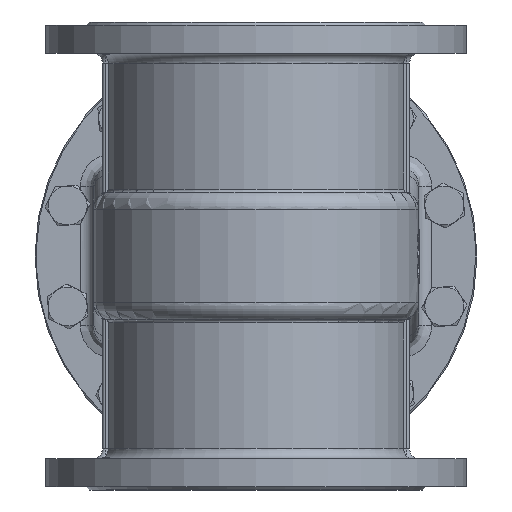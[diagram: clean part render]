
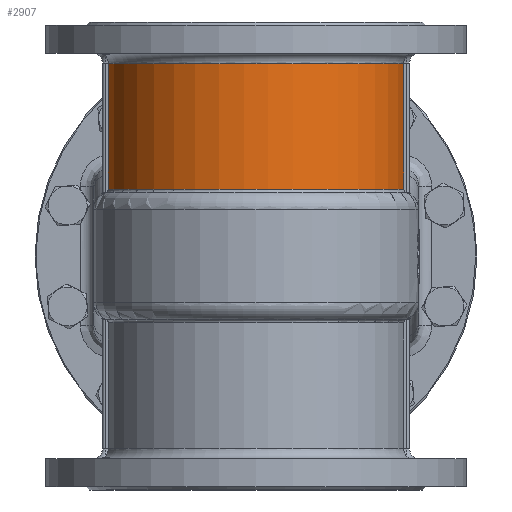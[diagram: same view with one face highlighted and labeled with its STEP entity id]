
A CAD part, front view. The second image highlights one B-rep face of the part: STEP entity #2907.
In plain terms, the highlighted cylindrical face has radius 143.75 mm (diameter 287.5 mm), a partial arc.
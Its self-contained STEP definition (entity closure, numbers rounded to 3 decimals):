
#2907=ADVANCED_FACE('',(#16444),#16446,.T.);
#16444=FACE_BOUND('',#16445,.T.);
#16445=EDGE_LOOP('',(#28786,#28787,#28788,#28789));
#16446=CYLINDRICAL_SURFACE('',#16447,143.75);
#16447=AXIS2_PLACEMENT_3D('',#16448,#16449,#16450);
#16448=CARTESIAN_POINT('',(0.,0.,165.504));
#16449=DIRECTION('',(0.,0.,1.));
#16450=DIRECTION('',(-0.988,-0.152,0.));
#28786=ORIENTED_EDGE('',*,*,#35152,.F.);
#28787=ORIENTED_EDGE('',*,*,#34970,.T.);
#28788=ORIENTED_EDGE('',*,*,#34967,.T.);
#28789=ORIENTED_EDGE('',*,*,#34963,.F.);
#34963=EDGE_CURVE('',#38986,#38989,#38990,.T.);
#34967=EDGE_CURVE('',#38993,#38989,#38995,.T.);
#34970=EDGE_CURVE('',#38997,#38993,#39000,.T.);
#35152=EDGE_CURVE('',#38997,#38986,#39305,.T.);
#38986=VERTEX_POINT('',#59728);
#38989=VERTEX_POINT('',#59733);
#38990=LINE('',#59734,#59735);
#38993=VERTEX_POINT('',#59810);
#38995=CIRCLE('',#59890,143.75);
#38997=VERTEX_POINT('',#59895);
#39000=LINE('',#59902,#59903);
#39305=CIRCLE('',#62463,143.75);
#59728=CARTESIAN_POINT('',(142.076,-21.875,185.));
#59733=CARTESIAN_POINT('',(142.076,-21.875,64.365));
#59734=CARTESIAN_POINT('',(142.076,-21.875,185.));
#59735=VECTOR('',#59736,1.);
#59736=DIRECTION('',(0.,0.,-1.));
#59810=CARTESIAN_POINT('',(-142.076,-21.875,64.365));
#59890=AXIS2_PLACEMENT_3D('',#59891,#59892,#59893);
#59891=CARTESIAN_POINT('',(0.,0.,64.365));
#59892=DIRECTION('',(0.,0.,1.));
#59893=DIRECTION('',(-0.988,-0.152,0.));
#59895=CARTESIAN_POINT('',(-142.076,-21.875,185.));
#59902=CARTESIAN_POINT('',(-142.076,-21.875,185.));
#59903=VECTOR('',#59904,1.);
#59904=DIRECTION('',(0.,0.,-1.));
#62463=AXIS2_PLACEMENT_3D('',#62464,#62465,#62466);
#62464=CARTESIAN_POINT('',(0.,0.,185.));
#62465=DIRECTION('',(0.,0.,1.));
#62466=DIRECTION('',(-0.988,-0.152,0.));
